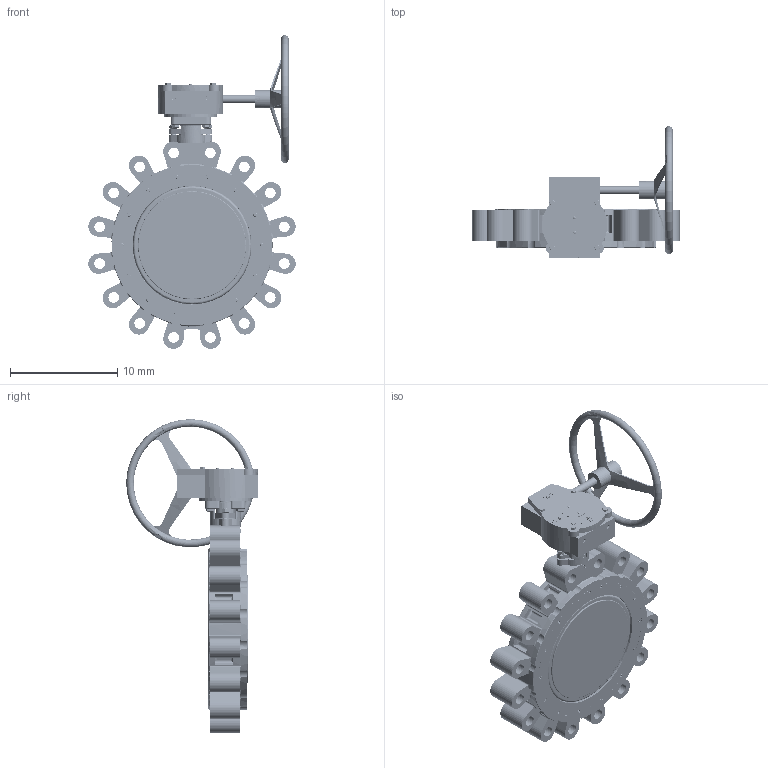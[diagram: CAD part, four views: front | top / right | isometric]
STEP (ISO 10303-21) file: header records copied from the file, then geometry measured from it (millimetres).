
FILE_DESCRIPTION(('Open CASCADE Model'),'2;1');
FILE_NAME('Open CASCADE Shape Model','2022-07-22T11:56:24',('Author'),( 'Open CASCADE'),'Open CASCADE STEP processor 7.3','Open CASCADE 7.3' ,'Unknown');
FILE_SCHEMA(('AUTOMOTIVE_DESIGN { 1 0 10303 214 1 1 1 1 }'));
Length unit declared in the file: millimetre
Products named in the file (54): Open CASCADE STEP translator 7.3 1; Open CASCADE STEP translator 7.3 1.1; Open CASCADE STEP translator 7.3 1.2; Open CASCADE STEP translator 7.3 1.3; Open CASCADE STEP translator 7.3 1.4; Open CASCADE STEP translator 7.3 1.5; Open CASCADE STEP translator 7.3 1.6; Open CASCADE STEP translator 7.3 1.7; Open CASCADE STEP translator 7.3 1.8; Open CASCADE STEP translator 7.3 1.9; Open CASCADE STEP translator 7.3 1.10; Open CASCADE STEP translator 7.3 1.11; Open CASCADE STEP translator 7.3 1.12; Open CASCADE STEP translator 7.3 1.13; Open CASCADE STEP translator 7.3 1.14; Open CASCADE STEP translator 7.3 1.15; Open CASCADE STEP translator 7.3 1.16; Open CASCADE STEP translator 7.3 1.17; Open CASCADE STEP translator 7.3 1.18; Open CASCADE STEP translator 7.3 1.19; Open CASCADE STEP translator 7.3 1.20; Open CASCADE STEP translator 7.3 1.21; Open CASCADE STEP translator 7.3 1.22; Open CASCADE STEP translator 7.3 1.23; Open CASCADE STEP translator 7.3 1.24; Open CASCADE STEP translator 7.3 1.25; Open CASCADE STEP translator 7.3 1.26; Open CASCADE STEP translator 7.3 1.27; Open CASCADE STEP translator 7.3 1.28; Open CASCADE STEP translator 7.3 1.29; Open CASCADE STEP translator 7.3 1.30; Open CASCADE STEP translator 7.3 1.31; Open CASCADE STEP translator 7.3 1.32; Open CASCADE STEP translator 7.3 1.33; Open CASCADE STEP translator 7.3 1.34; Open CASCADE STEP translator 7.3 1.35; Open CASCADE STEP translator 7.3 1.36; Open CASCADE STEP translator 7.3 1.37; Open CASCADE STEP translator 7.3 1.38; Open CASCADE STEP translator 7.3 1.39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
Assembly tree (53 placements, depth 2):
  Open CASCADE STEP translator 7.3 1
    Open CASCADE STEP translator 7.3 1.1
    Open CASCADE STEP translator 7.3 1.2
    Open CASCADE STEP translator 7.3 1.3
    Open CASCADE STEP translator 7.3 1.4
    Open CASCADE STEP translator 7.3 1.5
    Open CASCADE STEP translator 7.3 1.6
    Open CASCADE STEP translator 7.3 1.7
    Open CASCADE STEP translator 7.3 1.8
    Open CASCADE STEP translator 7.3 1.9
    Open CASCADE STEP translator 7.3 1.10
    Open CASCADE STEP translator 7.3 1.11
    Open CASCADE STEP translator 7.3 1.12
    Open CASCADE STEP translator 7.3 1.13
    Open CASCADE STEP translator 7.3 1.14
    Open CASCADE STEP translator 7.3 1.15
    Open CASCADE STEP translator 7.3 1.16
    Open CASCADE STEP translator 7.3 1.17
    Open CASCADE STEP translator 7.3 1.18
    Open CASCADE STEP translator 7.3 1.19
    Open CASCADE STEP translator 7.3 1.20
    Open CASCADE STEP translator 7.3 1.21
    Open CASCADE STEP translator 7.3 1.22
    Open CASCADE STEP translator 7.3 1.23
    Open CASCADE STEP translator 7.3 1.24
    Open CASCADE STEP translator 7.3 1.25
    Open CASCADE STEP translator 7.3 1.26
    Open CASCADE STEP translator 7.3 1.27
    Open CASCADE STEP translator 7.3 1.28
    Open CASCADE STEP translator 7.3 1.29
    Open CASCADE STEP translator 7.3 1.30
    Open CASCADE STEP translator 7.3 1.31
    Open CASCADE STEP translator 7.3 1.32
    Open CASCADE STEP translator 7.3 1.33
    Open CASCADE STEP translator 7.3 1.34
    Open CASCADE STEP translator 7.3 1.35
    Open CASCADE STEP translator 7.3 1.36
    Open CASCADE STEP translator 7.3 1.37
    Open CASCADE STEP translator 7.3 1.38
    Open CASCADE STEP translator 7.3 1.39
    Open CASCADE STEP translator 7.3 1.40
    Open CASCADE STEP translator 7.3 1.41
    Open CASCADE STEP translator 7.3 1.42
    Open CASCADE STEP translator 7.3 1.43
    Open CASCADE STEP translator 7.3 1.44
    Open CASCADE STEP translator 7.3 1.45
    Open CASCADE STEP translator 7.3 1.46
    Open CASCADE STEP translator 7.3 1.47
    Open CASCADE STEP translator 7.3 1.48
    Open CASCADE STEP translator 7.3 1.49
    Open CASCADE STEP translator 7.3 1.50
    Open CASCADE STEP translator 7.3 1.51
    Open CASCADE STEP translator 7.3 1.52
    Open CASCADE STEP translator 7.3 1.53
Bounding box: 19.31 x 12.25 x 29.22 mm (x, y, z)
Volume: 682.3 mm3; surface area: 2129.4 mm2
Topology: 53 solids, 53 shells, 1894 faces, 4635 edges, 2992 vertices
Faces by surface type: plane 763, cylinder 499, cone 426, torus 104, bspline 93, sphere 9
Full cylindrical faces by diameter (mm): 0.118 x1, 0.158 x3, 0.163 x2, 0.165 x2, 0.197 x6, 0.217 x28, 0.276 x2, 0.315 x14, 0.355 x28, 0.394 x126, 0.473 x6, 0.749 x2, 0.985 x1, 0.99 x16, 1.103 x1, 1.714 x2, 1.773 x9, 1.785 x1, 1.793 x1, 1.812 x1, 1.832 x2, 1.834 x2, 2.23 x2, 2.246 x4, 4.925 x1, 10.086 x2, 11.071 x1, 11.237 x1, 11.253 x1, 11.296 x1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
Entity records: 291095 total; most frequent: CARTESIAN_POINT 199457, DIRECTION 16430, ORIENTED_EDGE 9268, PCURVE 9268, DEFINITIONAL_REPRESENTATION 9268, LINE 8335, VECTOR 8335, EDGE_CURVE 4634
